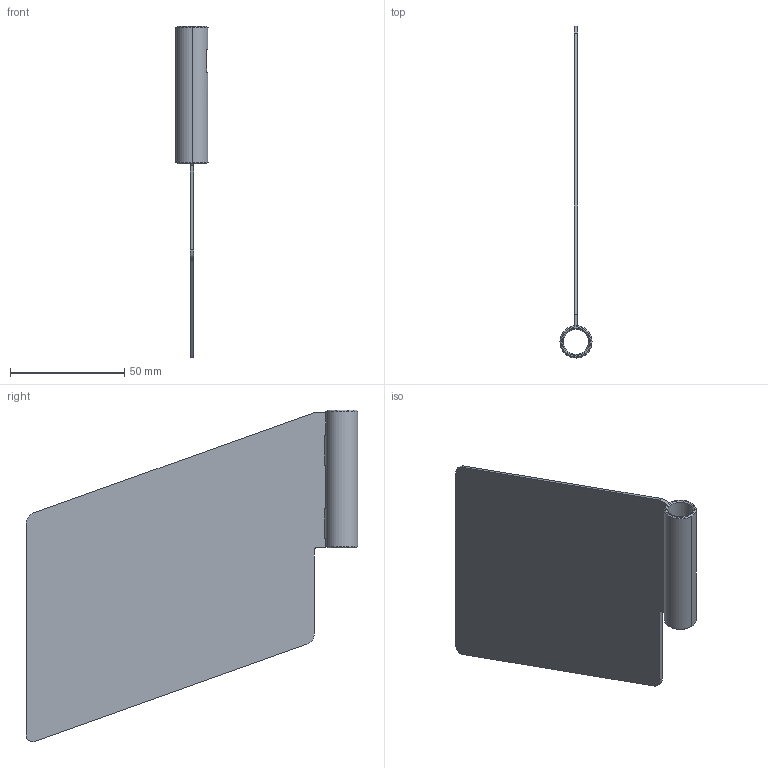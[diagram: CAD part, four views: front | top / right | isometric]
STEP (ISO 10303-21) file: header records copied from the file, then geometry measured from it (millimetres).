
FILE_DESCRIPTION(/* description */ (''),/* implementation_level */ '2;1');
FILE_NAME(/* name */ 'AC6-INOX.stp',/* time_stamp */ '2024-03-22T11:23:48+01:00',/* author */ ('filippo.guidetti'),/* organization */ (''),/* preprocessor_version */ 'ST-DEVELOPER v20',/* originating_system */ 'Autodesk Inventor 2024',/* authorisation */ '');
FILE_SCHEMA (('AUTOMOTIVE_DESIGN { 1 0 10303 214 3 1 1 }'));
Length unit declared in the file: millimetre
Products named in the file (1): AC6-INOX
Bounding box: 14 x 145 x 144.74 mm (x, y, z)
Volume: 22807.9 mm3; surface area: 31232.5 mm2
Topology: 1 solids, 1 shells, 43 faces, 123 edges, 79 vertices
Faces by surface type: plane 27, cylinder 12, cone 4
Full cylindrical faces by diameter (mm): 5.5 x1, 11 x1
Entity records: 1579 total; most frequent: CARTESIAN_POINT 292, ORIENTED_EDGE 248, DIRECTION 248, EDGE_CURVE 124, AXIS2_PLACEMENT_3D 85, VERTEX_POINT 79, LINE 78, VECTOR 78
